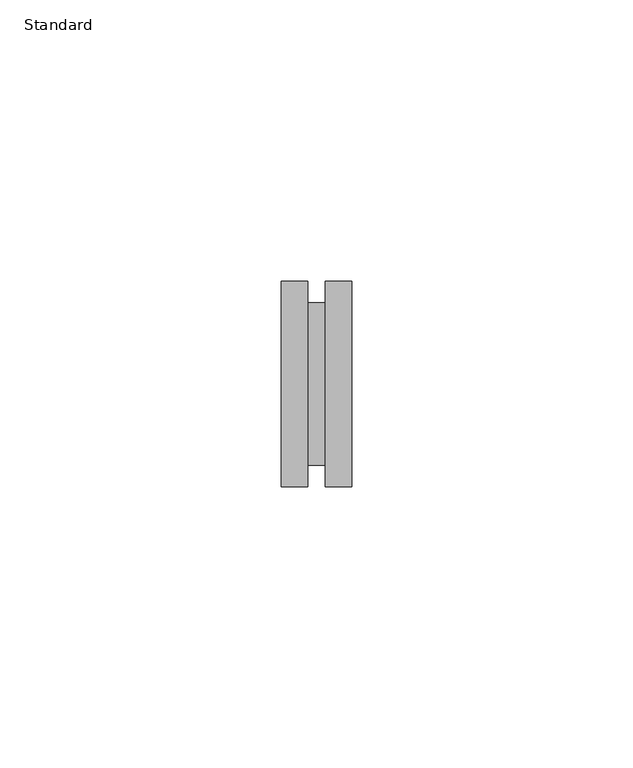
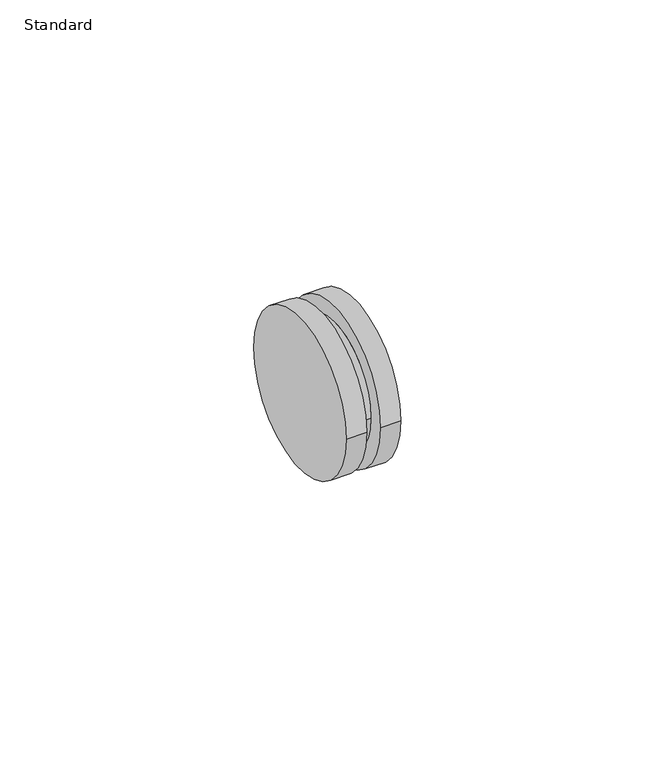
"""IFC4 building model written with IfcOpenShell, lengths in millimetres: pipe fitting geometry, Cople_Lubrizol_CPVC_FlowGuard_MX : Standard."""

import ifcopenshell
import ifcopenshell.guid

model = None  # the IFC model being written
_history = None  # IfcOwnerHistory: only IFC2X3 demands one
_inside = {}  # id of a spatial element -> (the spatial element, [elements in it])
_under = {}  # id of a project, library or spatial element -> (it, [spatial elements below it])
_declared = {}  # id of a project -> (the project, [libraries it declares])
_typed = {}  # id of a type object -> (the type object, [elements of that type])
_made_of = {}  # id of a material, layer set ... -> (it, [elements and type objects made of it])


def new_model(schema):
    """Start an empty IFC model of exactly this schema.

    Asked for "IFC4X3", IfcOpenShell would pick the latest addendum, in which some entities
    have other attributes; the version numbers below select the first issue.
    IFC2X3 requires an IfcOwnerHistory on every rooted entity: one is made here for all.
    """
    global model, _history
    if schema == "IFC4X3":
        model = ifcopenshell.file(schema_version=(4, 3, 0, 0))
    else:
        model = ifcopenshell.file(schema=schema)
    _inside.clear()
    _under.clear()
    _declared.clear()
    _typed.clear()
    _made_of.clear()
    _history = None
    if model.schema == "IFC2X3":
        org = make("IfcOrganization", Name="unknown")
        user = make(
            "IfcPersonAndOrganization",
            ThePerson=make("IfcPerson", FamilyName="unknown"),
            TheOrganization=org,
        )
        app = make(
            "IfcApplication",
            ApplicationDeveloper=org,
            Version="unknown",
            ApplicationFullName="unknown",
            ApplicationIdentifier="unknown",
        )
        _history = make(
            "IfcOwnerHistory",
            OwningUser=user,
            OwningApplication=app,
            ChangeAction="ADDED",
            CreationDate=0,
        )
    return model


def make(cls, **values):
    """One entity of the class cls with the attributes given. An attribute that is None is left unset."""
    return model.create_entity(
        cls, **{name: value for name, value in values.items() if value is not None}
    )


def rooted(cls, **values):
    """An entity with a GlobalId (a new one), such as an element, a storey or a relation."""
    return make(cls, GlobalId=ifcopenshell.guid.new(), OwnerHistory=_history, **values)


def si_unit(unit_type, name, prefix=None):
    """IfcSIUnit, for example si_unit("LENGTHUNIT", "METRE", prefix="MILLI")."""
    return make("IfcSIUnit", UnitType=unit_type, Prefix=prefix, Name=name)


def assignment(units):
    """IfcUnitAssignment: the units of a project."""
    return None if units is None else make("IfcUnitAssignment", Units=units)


def point(xyz):
    """IfcCartesianPoint."""
    return None if xyz is None else make("IfcCartesianPoint", Coordinates=xyz)


def direction(xyz):
    """IfcDirection."""
    return None if xyz is None else make("IfcDirection", DirectionRatios=xyz)


def frame(location, z_axis=None, x_axis=None):
    """IfcAxis2Placement3D, a coordinate frame: its origin and axes. An axis left out is left unset."""
    return make(
        "IfcAxis2Placement3D",
        Location=point(location),
        Axis=direction(z_axis),
        RefDirection=direction(x_axis),
    )


def origin():
    """The frame at (0, 0, 0) with its axes left unset."""
    return frame((0.0, 0.0, 0.0))


def place(relative_to, where):
    """IfcLocalPlacement: puts the frame where relative to a parent placement (None: the world)."""
    return make(
        "IfcLocalPlacement", PlacementRelTo=relative_to, RelativePlacement=where
    )


def context(
    kind, dimensions, precision=None, world=None, true_north=None, identifier=None
):
    """IfcGeometricRepresentationContext, for example the 3D "Model" context."""
    return make(
        "IfcGeometricRepresentationContext",
        ContextIdentifier=identifier,
        ContextType=kind,
        CoordinateSpaceDimension=dimensions,
        Precision=precision,
        WorldCoordinateSystem=world,
        TrueNorth=true_north,
    )


def project(units=None, contexts=None):
    """IfcProject with its units and contexts."""
    return rooted(
        "IfcProject",
        Name="project",
        RepresentationContexts=contexts,
        UnitsInContext=assignment(units),
    )


def spatial(cls, under=None, at=None, **own):
    """A site, building, storey or space (cls), placed at a placement, below another one or the project."""
    s = rooted(cls, ObjectPlacement=at, **own)
    if under is not None:
        _under.setdefault(under.id(), (under, []))[1].append(s)
    return s


def circle_curve(where, radius):
    """IfcCircle in the frame where."""
    return make("IfcCircle", Position=where, Radius=radius)


def shape(context_of_items, identifier, shape_type, items):
    """IfcShapeRepresentation: the items that make up one representation, for example the "Body"."""
    return make(
        "IfcShapeRepresentation",
        ContextOfItems=context_of_items,
        RepresentationIdentifier=identifier,
        RepresentationType=shape_type,
        Items=items,
    )


def source(mapping_origin, context_of_items, identifier, shape_type, items):
    """IfcRepresentationMap: a shape defined once, which mapped items show again and again."""
    return make(
        "IfcRepresentationMap",
        MappingOrigin=mapping_origin,
        MappedRepresentation=shape(context_of_items, identifier, shape_type, items),
    )


def transform(
    local_origin,
    x_axis=None,
    y_axis=None,
    z_axis=None,
    scale=None,
    scale2=None,
    scale3=None,
    uniform=True,
):
    """IfcCartesianTransformationOperator3D, or its non-uniform kind. x_axis, y_axis, z_axis: its Axis1, 2, 3."""
    if uniform:
        return make(
            "IfcCartesianTransformationOperator3D",
            Axis1=direction(x_axis),
            Axis2=direction(y_axis),
            LocalOrigin=point(local_origin),
            Scale=scale,
            Axis3=direction(z_axis),
        )
    return make(
        "IfcCartesianTransformationOperator3DnonUniform",
        Axis1=direction(x_axis),
        Axis2=direction(y_axis),
        LocalOrigin=point(local_origin),
        Scale=scale,
        Axis3=direction(z_axis),
        Scale2=scale2,
        Scale3=scale3,
    )


def mapped(mapping_source, mapping_target):
    """IfcMappedItem: shows the shape of a source again, moved by a transform."""
    return make(
        "IfcMappedItem", MappingSource=mapping_source, MappingTarget=mapping_target
    )


def made_of(thing, what):
    """Note that an element or type object is made of a material, layer set ...; save() writes the relation."""
    if what is not None:
        _made_of.setdefault(what.id(), (what, []))[1].append(thing)
    return thing


def element(
    cls,
    number,
    at=None,
    inside=None,
    cuts=None,
    type_object=None,
    material=None,
    context=None,
    identifier="Body",
    shape_type=None,
    held_by="IfcProductDefinitionShape",
    body=None,
    shapes=None,
    **own,
):
    """One element of the class cls, such as IfcWall. Its Tag is "e" and its number.

    at: its placement. inside: the storey or other place that contains it. cuts: it is an
    opening in that element (IfcRelVoidsElement). A single representation is given by context,
    identifier, shape_type and body (its items); several are given by shapes. held_by: the class
    of the entity that holds the representations. save() writes the other relations.
    """
    e = rooted(cls, Tag="e%d" % number, ObjectPlacement=at, **own)
    if body is not None:
        shapes = [shape(context, identifier, shape_type, body)]
    if shapes is not None:
        e.Representation = make(held_by, Representations=shapes)
    if inside is not None:
        _inside.setdefault(inside.id(), (inside, []))[1].append(e)
    if cuts is not None:
        rooted(
            "IfcRelVoidsElement", RelatingBuildingElement=cuts, RelatedOpeningElement=e
        )
    if type_object is not None:
        _typed.setdefault(type_object.id(), (type_object, []))[1].append(e)
    return made_of(e, material)


def aggregate(whole, parts):
    """IfcRelAggregates: a whole, such as a stair, and the parts it consists of."""
    return rooted("IfcRelAggregates", RelatingObject=whole, RelatedObjects=parts)


def save(model, path):
    """Write the relations noted so far, then the file.

    IfcRelAggregates (storeys below a building ...), IfcRelContainedInSpatialStructure (elements
    in a storey), IfcRelDefinesByType, IfcRelAssociatesMaterial and IfcRelDeclares: one each for
    every whole, place, type object, material and project.
    """
    for whole, parts in _under.values():
        aggregate(whole, parts)
    for where, things in _inside.values():
        rooted(
            "IfcRelContainedInSpatialStructure",
            RelatedElements=things,
            RelatingStructure=where,
        )
    for kind, things in _typed.values():
        rooted("IfcRelDefinesByType", RelatedObjects=things, RelatingType=kind)
    for what, things in _made_of.values():
        rooted("IfcRelAssociatesMaterial", RelatedObjects=things, RelatingMaterial=what)
    for by, libraries in _declared.values():
        rooted("IfcRelDeclares", RelatingContext=by, RelatedDefinitions=libraries)
    model.write(path)


def plane_surface(at):
    """IfcPlane: the flat surface through the origin of the frame at, square to its z axis."""
    return make("IfcPlane", Position=at)


def cylinder_surface(at, radius):
    """IfcCylindricalSurface: all points at the distance radius from the z axis of the frame at."""
    return make("IfcCylindricalSurface", Position=at, Radius=radius)


def advanced_brep(points, edges, surfaces, faces):
    """IfcAdvancedBrep: a solid bounded by faces that lie on surfaces and meet in shared edges.

    An edge is (start, end): straight between two places in points (the first is 0);
    or (start, end, curve); or (start, end, curve, False) where it runs against its curve.
    A face is (place in surfaces, loops), or (place, loops, False) where it looks against
    its surface's normal. A loop lists edges by number (the first is 1), with a minus sign
    where the edge is run from its end to its start. The first loop is the outer one.
    """
    corners = [point(p) for p in points]
    vertices = [make("IfcVertexPoint", VertexGeometry=c) for c in corners]
    made = []
    for start, end, *more in edges:
        made.append(
            make(
                "IfcEdgeCurve",
                EdgeStart=vertices[start],
                EdgeEnd=vertices[end],
                EdgeGeometry=more[0] if more else make("IfcPolyline", Points=[corners[start], corners[end]]),
                SameSense=more[1] if len(more) > 1 else True,
            )
        )
    hull = []
    for where, loops, *sense in faces:
        bounds = []
        for j, loop in enumerate(loops):
            ring = [make("IfcOrientedEdge", EdgeElement=made[abs(k) - 1], Orientation=k > 0) for k in loop]
            bounds.append(
                make(
                    "IfcFaceOuterBound" if j == 0 else "IfcFaceBound",
                    Bound=make("IfcEdgeLoop", EdgeList=ring),
                    Orientation=True,
                )
            )
        hull.append(make("IfcAdvancedFace", Bounds=bounds, FaceSurface=surfaces[where], SameSense=sense[0] if sense else True))
    return make("IfcAdvancedBrep", Outer=make("IfcClosedShell", CfsFaces=hull))


def standard_b45bd4e5(model_context):
    return source(origin(), model_context, "Body", "AdvancedBrep", [
        advanced_brep(
        [(-6.2458594, -18.2471094, 0.0), (-6.2458594, 18.2471094, 0.0), (-1.5790625, -18.2471094, 0.0), (-1.5790625, 18.2471094, 0.0), (-1.5790625, -14.4440625, 0.0), (-1.5790625, 14.4440625, 0.0), (1.5790625, -14.4440625, 0.0), (1.5790625, 14.4440625, 0.0), (1.5790625, -18.2471094, 0.0), (1.5790625, 18.2471094, 0.0), (6.2458594, -18.2471094, 0.0), (6.2458594, 18.2471094, 0.0)],
        [
            (0, 1, circle_curve(frame((-6.2458594, 0.0, 0.0), z_axis=(-1.0, 0.0, 0.0), x_axis=(0.0, 1.0, 0.0)), 18.2471094)),
            (1, 0, circle_curve(frame((-6.2458594, 0.0, 0.0), z_axis=(-1.0, 0.0, 0.0), x_axis=(0.0, 1.0, 0.0)), 18.2471094)),
            (2, 3, circle_curve(frame((-1.5790625, 0.0, 0.0), z_axis=(1.0, 0.0, 0.0), x_axis=(0.0, 1.0, 0.0)), 18.2471094)),
            (3, 2, circle_curve(frame((-1.5790625, 0.0, 0.0), z_axis=(1.0, 0.0, 0.0), x_axis=(0.0, 1.0, 0.0)), 18.2471094)),
            (4, 5, circle_curve(frame((-1.5790625, 0.0, 0.0), z_axis=(-1.0, 0.0, 0.0), x_axis=(0.0, 1.0, 0.0)), 14.4440625)),
            (5, 4, circle_curve(frame((-1.5790625, 0.0, 0.0), z_axis=(-1.0, 0.0, 0.0), x_axis=(0.0, 1.0, 0.0)), 14.4440625)),
            (0, 2),
            (3, 1),
            (4, 6),
            (6, 7, circle_curve(frame((1.5790625, 0.0, 0.0), z_axis=(-1.0, 0.0, 0.0), x_axis=(0.0, 1.0, 0.0)), 14.4440625)),
            (7, 5),
            (7, 6, circle_curve(frame((1.5790625, 0.0, 0.0), z_axis=(-1.0, 0.0, 0.0), x_axis=(0.0, 1.0, 0.0)), 14.4440625)),
            (8, 9, circle_curve(frame((1.5790625, 0.0, 0.0), z_axis=(-1.0, 0.0, 0.0), x_axis=(0.0, 1.0, 0.0)), 18.2471094)),
            (9, 8, circle_curve(frame((1.5790625, 0.0, 0.0), z_axis=(-1.0, 0.0, 0.0), x_axis=(0.0, 1.0, 0.0)), 18.2471094)),
            (10, 11, circle_curve(frame((6.2458594, 0.0, 0.0), z_axis=(1.0, 0.0, 0.0), x_axis=(0.0, 1.0, 0.0)), 18.2471094)),
            (11, 10, circle_curve(frame((6.2458594, 0.0, 0.0), z_axis=(1.0, 0.0, 0.0), x_axis=(0.0, 1.0, 0.0)), 18.2471094)),
            (8, 10),
            (11, 9),
        ],
        [
            plane_surface(frame((-6.2458594, 0.0, 0.0), z_axis=(-1.0, 0.0, 0.0), x_axis=(0.0, 0.0, 1.0))),
            plane_surface(frame((-1.5790625, 0.0, 0.0), z_axis=(1.0, 0.0, 0.0), x_axis=(0.0, 0.0, 1.0))),
            cylinder_surface(frame((-6.2458594, 0.0, 0.0), z_axis=(-1.0, 0.0, 0.0), x_axis=(0.0, 1.0, 0.0)), 18.2471094),
            cylinder_surface(frame((-1.5790625, 0.0, 0.0), z_axis=(-1.0, 0.0, 0.0), x_axis=(0.0, 1.0, 0.0)), 14.4440625),
            plane_surface(frame((1.5790625, 0.0, 0.0), z_axis=(-1.0, 0.0, 0.0), x_axis=(0.0, 0.0, 1.0))),
            plane_surface(frame((6.2458594, 0.0, 0.0), z_axis=(1.0, 0.0, 0.0), x_axis=(0.0, 0.0, 1.0))),
            cylinder_surface(frame((1.5790625, 0.0, 0.0), z_axis=(-1.0, 0.0, 0.0), x_axis=(0.0, 1.0, 0.0)), 18.2471094),
        ],
        [
            (0, [[1, 2]]),
            (1, [[3, 4], [5, 6]]),
            (2, [[-1, 7, -4, 8]]),
            (2, [[-2, -8, -3, -7]]),
            (3, [[9, 10, 11, -5]]),
            (3, [[-9, -6, -11, 12]]),
            (4, [[13, 14], [-10, -12]]),
            (5, [[15, 16]]),
            (6, [[-13, 17, -16, 18]]),
            (6, [[-14, -18, -15, -17]]),
        ],
    ),
    ])


if __name__ == "__main__":
    model = new_model("IFC4")
    model_context = context("Model", 3, world=origin())
    ifc_project = project(units=[si_unit("LENGTHUNIT", "METRE", prefix="MILLI")], contexts=[model_context])
    site = spatial("IfcSite", under=ifc_project)
    building = spatial("IfcBuilding", under=site)
    placement = place(None, origin())
    standard_shape = standard_b45bd4e5(model_context)
    element("IfcPipeFitting", 1, ObjectType="Cople_Lubrizol_CPVC_FlowGuard_MX : Standard", at=placement, inside=building, context=model_context, shape_type="MappedRepresentation", body=[
        mapped(standard_shape, transform((0.0, 0.0, 0.0), x_axis=(1.0, 0.0, 0.0), y_axis=(0.0, 1.0, 0.0), z_axis=(0.0, 0.0, 1.0))),
    ])
    save(model, "model.ifc")
